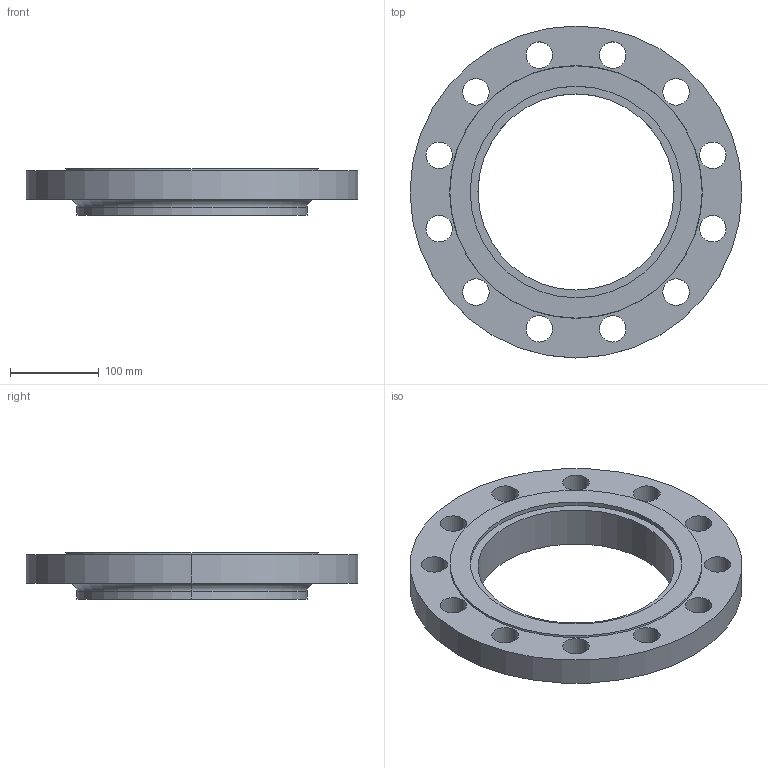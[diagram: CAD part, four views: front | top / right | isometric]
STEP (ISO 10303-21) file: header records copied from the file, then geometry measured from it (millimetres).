
FILE_DESCRIPTION (( 'STEP AP214' ), '1' );
FILE_NAME ('PN40 DN200 Type 12 - Type G Face.STEP', '2019-01-05T02:14:11', ( '' ), ( '' ), 'SwSTEP 2.0', 'SolidWorks 2019', '' );
FILE_SCHEMA (( 'AUTOMOTIVE_DESIGN' ));
Length unit declared in the file: millimetre
Products named in the file (1): PN40 DN200 Type 12 - Type G Face
Bounding box: 375 x 375 x 52 mm (x, y, z)
Volume: 2328881.2 mm3; surface area: 249957.6 mm2
Topology: 1 solids, 1 shells, 41 faces, 106 edges, 70 vertices
Faces by surface type: cylinder 32, plane 5, torus 2, cone 2
Entity records: 1382 total; most frequent: DIRECTION 262, CARTESIAN_POINT 218, ORIENTED_EDGE 212, AXIS2_PLACEMENT_3D 114, EDGE_CURVE 106, CIRCLE 72, VERTEX_POINT 70, EDGE_LOOP 70
